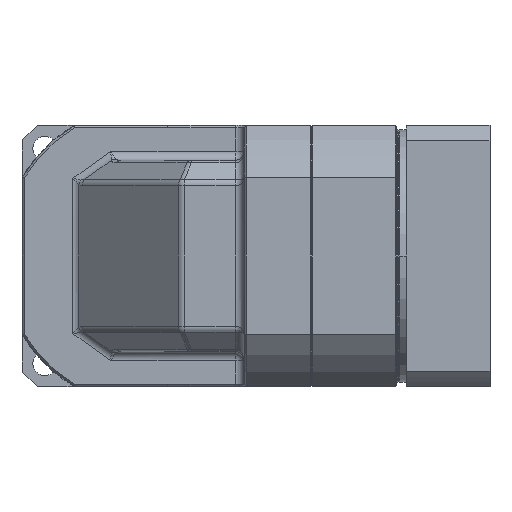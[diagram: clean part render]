
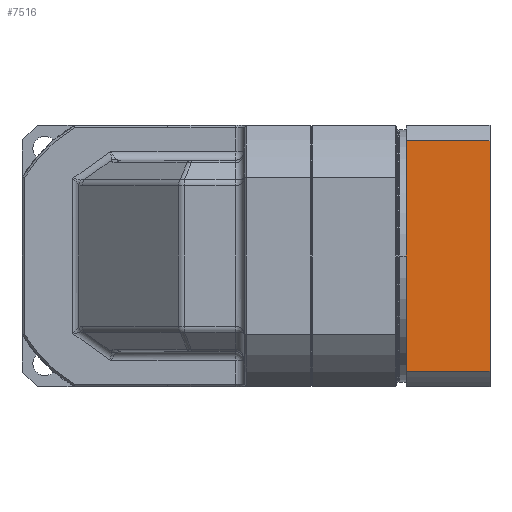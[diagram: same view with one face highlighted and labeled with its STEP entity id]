
A CAD part, left-side view. The second image highlights one B-rep face of the part: STEP entity #7516.
In plain terms, the highlighted planar face has unit normal (-1, 0, 0).
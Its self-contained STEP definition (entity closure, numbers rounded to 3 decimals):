
#389 = VECTOR ( 'NONE', #6714, 1000. ) ;
#1269 = VERTEX_POINT ( 'NONE', #4251 ) ;
#1638 = CARTESIAN_POINT ( 'NONE',  ( -139., -58.3, 0. ) ) ;
#1959 = VERTEX_POINT ( 'NONE', #9880 ) ;
#1965 = CARTESIAN_POINT ( 'NONE',  ( -139., -77.5, 0. ) ) ;
#2169 = EDGE_CURVE ( 'NONE', #6687, #1959, #7659, .T. ) ;
#2542 = VECTOR ( 'NONE', #2637, 1000. ) ;
#2629 = LINE ( 'NONE', #1638, #389 ) ;
#2637 = DIRECTION ( 'NONE',  ( 0., 1., 0. ) ) ;
#3164 = FACE_OUTER_BOUND ( 'NONE', #5470, .T. ) ;
#3508 = AXIS2_PLACEMENT_3D ( 'NONE', #10316, #8252, #8123 ) ;
#3913 = EDGE_CURVE ( 'NONE', #1269, #11739, #7402, .T. ) ;
#4050 = PLANE ( 'NONE',  #3508 ) ;
#4251 = CARTESIAN_POINT ( 'NONE',  ( -139., -77.5, 26.458 ) ) ;
#4379 = ORIENTED_EDGE ( 'NONE', *, *, #3913, .T. ) ;
#5470 = EDGE_LOOP ( 'NONE', ( #9973, #7661, #5511, #4379 ) ) ;
#5511 = ORIENTED_EDGE ( 'NONE', *, *, #13242, .F. ) ;
#5618 = CARTESIAN_POINT ( 'NONE',  ( -139., -77.5, -26.458 ) ) ;
#6687 = VERTEX_POINT ( 'NONE', #5618 ) ;
#6714 = DIRECTION ( 'NONE',  ( 0., 0., -1. ) ) ;
#6721 = LINE ( 'NONE', #1965, #9889 ) ;
#7271 = CARTESIAN_POINT ( 'NONE',  ( -139., -77.5, 26.458 ) ) ;
#7402 = LINE ( 'NONE', #7271, #9015 ) ;
#7451 = CARTESIAN_POINT ( 'NONE',  ( -139., -77.5, -26.458 ) ) ;
#7516 = ADVANCED_FACE ( 'NONE', ( #3164 ), #4050, .F. ) ;
#7659 = LINE ( 'NONE', #7451, #2542 ) ;
#7661 = ORIENTED_EDGE ( 'NONE', *, *, #2169, .F. ) ;
#8123 = DIRECTION ( 'NONE',  ( 0., 1., 0. ) ) ;
#8252 = DIRECTION ( 'NONE',  ( 1., 0., 0. ) ) ;
#9015 = VECTOR ( 'NONE', #9278, 1000. ) ;
#9061 = DIRECTION ( 'NONE',  ( 0., 0., -1. ) ) ;
#9278 = DIRECTION ( 'NONE',  ( 0., 1., 0. ) ) ;
#9880 = CARTESIAN_POINT ( 'NONE',  ( -139., -58.3, -26.458 ) ) ;
#9889 = VECTOR ( 'NONE', #9061, 1000. ) ;
#9973 = ORIENTED_EDGE ( 'NONE', *, *, #10641, .T. ) ;
#10316 = CARTESIAN_POINT ( 'NONE',  ( -139., -77.5, 0. ) ) ;
#10641 = EDGE_CURVE ( 'NONE', #11739, #1959, #2629, .T. ) ;
#11739 = VERTEX_POINT ( 'NONE', #13105 ) ;
#13105 = CARTESIAN_POINT ( 'NONE',  ( -139., -58.3, 26.458 ) ) ;
#13242 = EDGE_CURVE ( 'NONE', #1269, #6687, #6721, .T. ) ;
